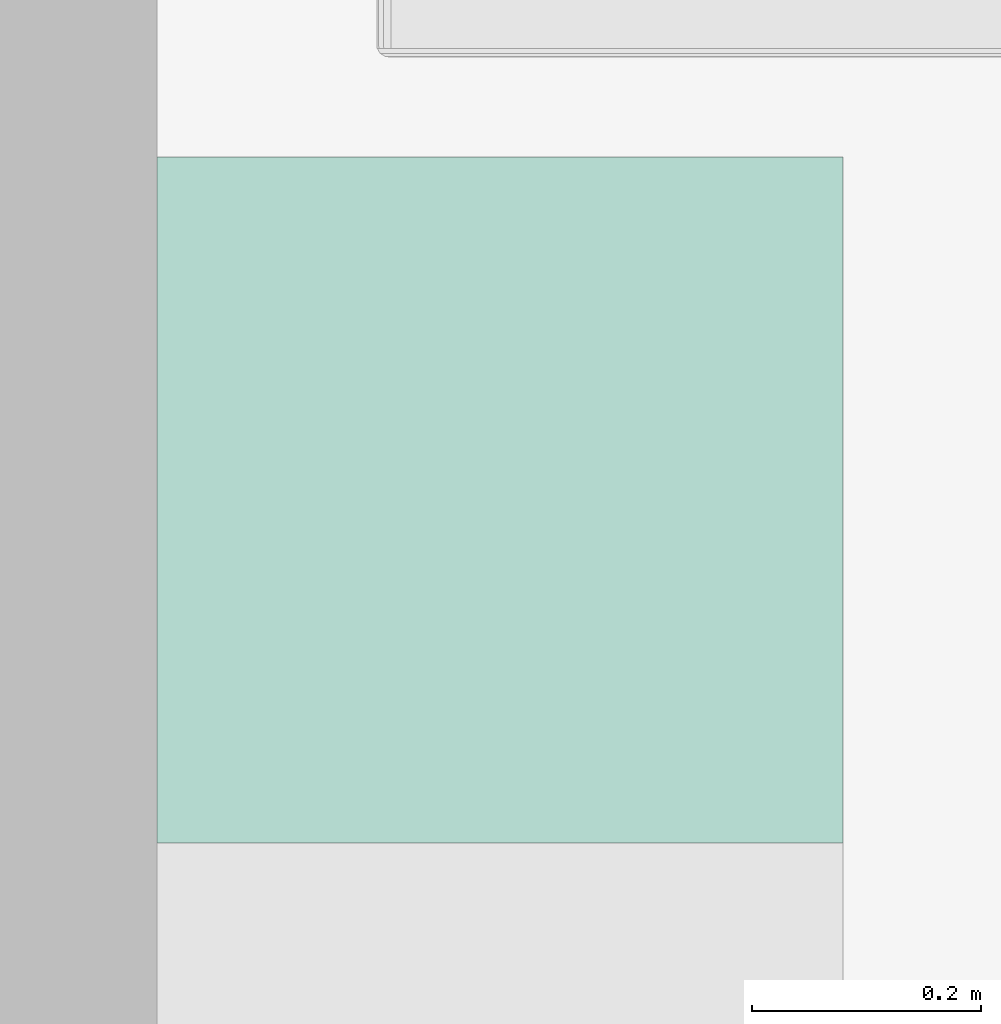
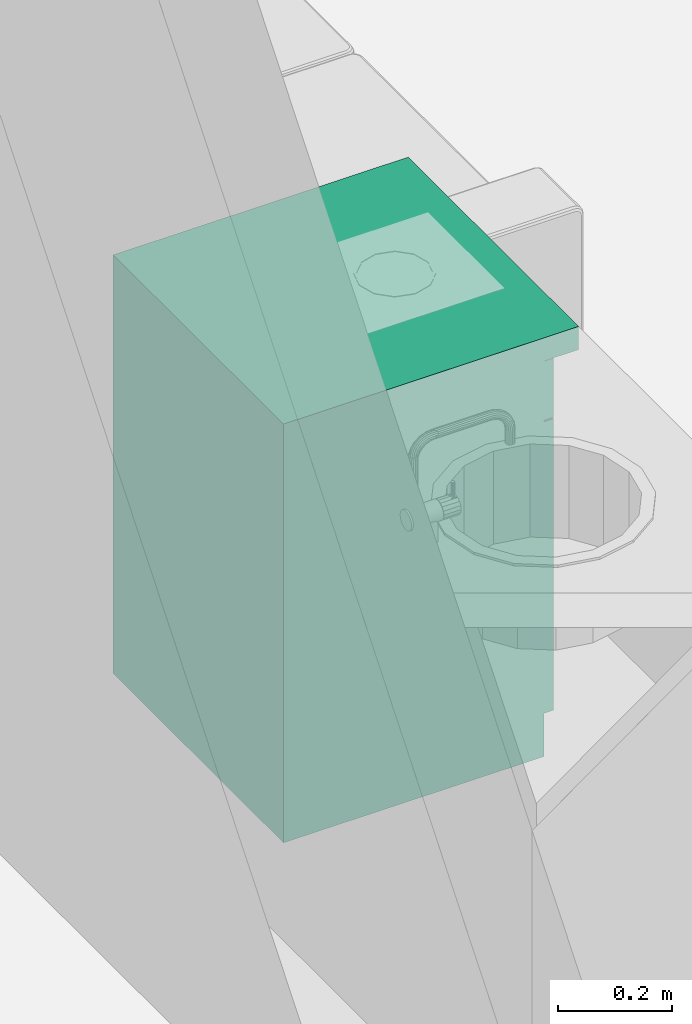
# One storey, part 40 of 165: 1 flow terminal.
"""IFC2X3 building model written with IfcOpenShell, lengths in millimetres."""

import ifcopenshell
import ifcopenshell.guid

model = None  # the IFC model being written
_history = None  # IfcOwnerHistory: only IFC2X3 demands one
_inside = {}  # id of a spatial element -> (the spatial element, [elements in it])
_under = {}  # id of a project, library or spatial element -> (it, [spatial elements below it])
_declared = {}  # id of a project -> (the project, [libraries it declares])
_typed = {}  # id of a type object -> (the type object, [elements of that type])
_made_of = {}  # id of a material, layer set ... -> (it, [elements and type objects made of it])


def new_model(schema):
    """Start an empty IFC model of exactly this schema.

    Asked for "IFC4X3", IfcOpenShell would pick the latest addendum, in which some entities
    have other attributes; the version numbers below select the first issue.
    IFC2X3 requires an IfcOwnerHistory on every rooted entity: one is made here for all.
    """
    global model, _history
    if schema == "IFC4X3":
        model = ifcopenshell.file(schema_version=(4, 3, 0, 0))
    else:
        model = ifcopenshell.file(schema=schema)
    _inside.clear()
    _under.clear()
    _declared.clear()
    _typed.clear()
    _made_of.clear()
    _history = None
    if model.schema == "IFC2X3":
        org = make("IfcOrganization", Name="unknown")
        user = make(
            "IfcPersonAndOrganization",
            ThePerson=make("IfcPerson", FamilyName="unknown"),
            TheOrganization=org,
        )
        app = make(
            "IfcApplication",
            ApplicationDeveloper=org,
            Version="unknown",
            ApplicationFullName="unknown",
            ApplicationIdentifier="unknown",
        )
        _history = make(
            "IfcOwnerHistory",
            OwningUser=user,
            OwningApplication=app,
            ChangeAction="ADDED",
            CreationDate=0,
        )
    return model


def make(cls, **values):
    """One entity of the class cls with the attributes given. An attribute that is None is left unset."""
    return model.create_entity(
        cls, **{name: value for name, value in values.items() if value is not None}
    )


def entity(cls, *values):
    """Any entity or typed value of the class cls, its attributes in the order of the schema. None: left unset."""
    e = model.create_entity(cls)
    for i, value in enumerate(values):
        if value is not None:
            e[i] = value
    return e


def rooted(cls, **values):
    """An entity with a GlobalId (a new one), such as an element, a storey or a relation."""
    return make(cls, GlobalId=ifcopenshell.guid.new(), OwnerHistory=_history, **values)


def si_unit(unit_type, name, prefix=None):
    """IfcSIUnit, for example si_unit("LENGTHUNIT", "METRE", prefix="MILLI")."""
    return make("IfcSIUnit", UnitType=unit_type, Prefix=prefix, Name=name)


def converted_unit(unit_type, name, factor, base, dimensions=None, offset=None):
    """IfcConversionBasedUnit, such as the inch: factor (a typed value) times the base unit."""
    return make(
        "IfcConversionBasedUnit"
        if offset is None
        else "IfcConversionBasedUnitWithOffset",
        ConversionOffset=offset,
        Dimensions=None
        if dimensions is None
        else entity("IfcDimensionalExponents", *dimensions),
        UnitType=unit_type,
        Name=name,
        ConversionFactor=make(
            "IfcMeasureWithUnit", ValueComponent=factor, UnitComponent=base
        ),
    )


def money_unit(currency):
    """IfcMonetaryUnit."""
    return make("IfcMonetaryUnit", Currency=currency)


def assignment(units):
    """IfcUnitAssignment: the units of a project."""
    return None if units is None else make("IfcUnitAssignment", Units=units)


def point(xyz):
    """IfcCartesianPoint."""
    return None if xyz is None else make("IfcCartesianPoint", Coordinates=xyz)


def direction(xyz):
    """IfcDirection."""
    return None if xyz is None else make("IfcDirection", DirectionRatios=xyz)


def frame(location, z_axis=None, x_axis=None):
    """IfcAxis2Placement3D, a coordinate frame: its origin and axes. An axis left out is left unset."""
    return make(
        "IfcAxis2Placement3D",
        Location=point(location),
        Axis=direction(z_axis),
        RefDirection=direction(x_axis),
    )


def origin_with_axes():
    """The frame at (0, 0, 0) with the z axis (0, 0, 1) and the x axis (1, 0, 0) written out."""
    return frame((0.0, 0.0, 0.0), z_axis=(0.0, 0.0, 1.0), x_axis=(1.0, 0.0, 0.0))


def place(relative_to, where):
    """IfcLocalPlacement: puts the frame where relative to a parent placement (None: the world)."""
    return make(
        "IfcLocalPlacement", PlacementRelTo=relative_to, RelativePlacement=where
    )


def context(
    kind, dimensions, precision=None, world=None, true_north=None, identifier=None
):
    """IfcGeometricRepresentationContext, for example the 3D "Model" context."""
    return make(
        "IfcGeometricRepresentationContext",
        ContextIdentifier=identifier,
        ContextType=kind,
        CoordinateSpaceDimension=dimensions,
        Precision=precision,
        WorldCoordinateSystem=world,
        TrueNorth=true_north,
    )


def subcontext(parent, identifier, kind, view, scale=None):
    """IfcGeometricRepresentationSubContext, for example "Body" below "Model"."""
    return make(
        "IfcGeometricRepresentationSubContext",
        ContextIdentifier=identifier,
        ContextType=kind,
        ParentContext=parent,
        TargetScale=scale,
        TargetView=view,
    )


def project(units=None, contexts=None):
    """IfcProject with its units and contexts."""
    return rooted(
        "IfcProject",
        Name="project",
        RepresentationContexts=contexts,
        UnitsInContext=assignment(units),
    )


def spatial(cls, under=None, at=None, **own):
    """A site, building, storey or space (cls), placed at a placement, below another one or the project."""
    s = rooted(cls, ObjectPlacement=at, **own)
    if under is not None:
        _under.setdefault(under.id(), (under, []))[1].append(s)
    return s


def faces_of(points, faces, orient=None, outer=None):
    """IfcFace entities. A face is a list of loops; a loop is a list of indices into points, from 0.

    orient and outer hold one flag for each loop. By default every Orientation is true, the
    first loop of a face is its IfcFaceOuterBound and the others are IfcFaceBound.
    """
    made = []
    for i, loops in enumerate(faces):
        bounds = []
        for j, loop in enumerate(loops):
            is_outer = j == 0 if outer is None else outer[i][j]
            bounds.append(
                make(
                    "IfcFaceOuterBound" if is_outer else "IfcFaceBound",
                    Bound=make("IfcPolyLoop", Polygon=[points[k] for k in loop]),
                    Orientation=True if orient is None else orient[i][j],
                )
            )
        made.append(make("IfcFace", Bounds=bounds))
    return made


def faceted_brep(points, faces, orient=None, outer=None, voids=None):
    """IfcFacetedBrep: a solid bounded by flat faces; with voids (closed shells), ...WithVoids."""
    shared = [point(p) for p in points]
    hull = make("IfcClosedShell", CfsFaces=faces_of(shared, faces, orient, outer))
    if voids is None:
        return make("IfcFacetedBrep", Outer=hull)
    return make(
        "IfcFacetedBrepWithVoids",
        Outer=hull,
        Voids=[
            make(cls, CfsFaces=faces_of(shared, fs, o, b)) for cls, fs, o, b in voids
        ],
    )


def shape(context_of_items, identifier, shape_type, items):
    """IfcShapeRepresentation: the items that make up one representation, for example the "Body"."""
    return make(
        "IfcShapeRepresentation",
        ContextOfItems=context_of_items,
        RepresentationIdentifier=identifier,
        RepresentationType=shape_type,
        Items=items,
    )


def source(mapping_origin, context_of_items, identifier, shape_type, items):
    """IfcRepresentationMap: a shape defined once, which mapped items show again and again."""
    return make(
        "IfcRepresentationMap",
        MappingOrigin=mapping_origin,
        MappedRepresentation=shape(context_of_items, identifier, shape_type, items),
    )


def transform(
    local_origin,
    x_axis=None,
    y_axis=None,
    z_axis=None,
    scale=None,
    scale2=None,
    scale3=None,
    uniform=True,
):
    """IfcCartesianTransformationOperator3D, or its non-uniform kind. x_axis, y_axis, z_axis: its Axis1, 2, 3."""
    if uniform:
        return make(
            "IfcCartesianTransformationOperator3D",
            Axis1=direction(x_axis),
            Axis2=direction(y_axis),
            LocalOrigin=point(local_origin),
            Scale=scale,
            Axis3=direction(z_axis),
        )
    return make(
        "IfcCartesianTransformationOperator3DnonUniform",
        Axis1=direction(x_axis),
        Axis2=direction(y_axis),
        LocalOrigin=point(local_origin),
        Scale=scale,
        Axis3=direction(z_axis),
        Scale2=scale2,
        Scale3=scale3,
    )


def mapped(mapping_source, mapping_target):
    """IfcMappedItem: shows the shape of a source again, moved by a transform."""
    return make(
        "IfcMappedItem", MappingSource=mapping_source, MappingTarget=mapping_target
    )


def material(Name=None, Category=None):
    """IfcMaterial."""
    return make("IfcMaterial", Name=Name, Category=Category)


def material_list(materials):
    """IfcMaterialList."""
    return make("IfcMaterialList", Materials=materials)


def made_of(thing, what):
    """Note that an element or type object is made of a material, layer set ...; save() writes the relation."""
    if what is not None:
        _made_of.setdefault(what.id(), (what, []))[1].append(thing)
    return thing


def type_object(cls, material=None, **own):
    """A type object (cls), such as IfcWallType, which elements share."""
    return made_of(rooted(cls, **own), material)


def element(
    cls,
    number,
    at=None,
    inside=None,
    cuts=None,
    type_object=None,
    material=None,
    context=None,
    identifier="Body",
    shape_type=None,
    held_by="IfcProductDefinitionShape",
    body=None,
    shapes=None,
    **own,
):
    """One element of the class cls, such as IfcWall. Its Tag is "e" and its number.

    at: its placement. inside: the storey or other place that contains it. cuts: it is an
    opening in that element (IfcRelVoidsElement). A single representation is given by context,
    identifier, shape_type and body (its items); several are given by shapes. held_by: the class
    of the entity that holds the representations. save() writes the other relations.
    """
    e = rooted(cls, Tag="e%d" % number, ObjectPlacement=at, **own)
    if body is not None:
        shapes = [shape(context, identifier, shape_type, body)]
    if shapes is not None:
        e.Representation = make(held_by, Representations=shapes)
    if inside is not None:
        _inside.setdefault(inside.id(), (inside, []))[1].append(e)
    if cuts is not None:
        rooted(
            "IfcRelVoidsElement", RelatingBuildingElement=cuts, RelatedOpeningElement=e
        )
    if type_object is not None:
        _typed.setdefault(type_object.id(), (type_object, []))[1].append(e)
    return made_of(e, material)


def aggregate(whole, parts):
    """IfcRelAggregates: a whole, such as a stair, and the parts it consists of."""
    return rooted("IfcRelAggregates", RelatingObject=whole, RelatedObjects=parts)


def save(model, path):
    """Write the relations noted so far, then the file.

    IfcRelAggregates (storeys below a building ...), IfcRelContainedInSpatialStructure (elements
    in a storey), IfcRelDefinesByType, IfcRelAssociatesMaterial and IfcRelDeclares: one each for
    every whole, place, type object, material and project.
    """
    for whole, parts in _under.values():
        aggregate(whole, parts)
    for where, things in _inside.values():
        rooted(
            "IfcRelContainedInSpatialStructure",
            RelatedElements=things,
            RelatingStructure=where,
        )
    for kind, things in _typed.values():
        rooted("IfcRelDefinesByType", RelatedObjects=things, RelatingType=kind)
    for what, things in _made_of.values():
        rooted("IfcRelAssociatesMaterial", RelatedObjects=things, RelatingMaterial=what)
    for by, libraries in _declared.values():
        rooted("IfcRelDeclares", RelatingContext=by, RelatedDefinitions=libraries)
    model.write(path)


model = new_model("IFC2X3")

# Units and contexts
model_context = context("Model", 3, precision=1e-05, world=origin_with_axes(), true_north=direction((0.0, 1.0)))
body_context = subcontext(model_context, "Body", "Model", "MODEL_VIEW")
ifc_project = project(units=[si_unit("LENGTHUNIT", "METRE", prefix="MILLI"), si_unit("AREAUNIT", "SQUARE_METRE"), si_unit("VOLUMEUNIT", "CUBIC_METRE"), converted_unit("PLANEANGLEUNIT", "DEGREE", entity("IfcPlaneAngleMeasure", 0.0174532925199), si_unit("PLANEANGLEUNIT", "RADIAN"), dimensions=[0, 0, 0, 0, 0, 0, 0]), si_unit("SOLIDANGLEUNIT", "STERADIAN"), money_unit("USD"), converted_unit("TIMEUNIT", "Year", entity("IfcTimeMeasure", 31556926.0), si_unit("TIMEUNIT", "SECOND"), dimensions=[0, 0, 0, 0, 0, 0, 0]), si_unit("MASSUNIT", "GRAM"), si_unit("THERMODYNAMICTEMPERATUREUNIT", "DEGREE_CELSIUS"), si_unit("LUMINOUSINTENSITYUNIT", "LUMEN")], contexts=[model_context])

# Site, building, storey
site_placement = place(None, origin_with_axes())
site = spatial("IfcSite", under=ifc_project, at=site_placement, Name="Site", CompositionType="ELEMENT")
building_placement = place(site_placement, origin_with_axes())
building = spatial("IfcBuilding", under=site, at=building_placement, Name="Building", CompositionType="ELEMENT")
storey_placement = place(building_placement, frame((0.0, 0.0, 6300.0), z_axis=(0.0, 0.0, 1.0), x_axis=(1.0, 0.0, 0.0)))
storey = spatial("IfcBuildingStorey", under=building, at=storey_placement, Name="4KORRUS", CompositionType="ELEMENT", Elevation=6300.0)

# Flow terminal
ifc_material = material(Name="Background")
ifc_material_list = material_list([ifc_material])
sanitary_terminal_type = type_object("IfcSanitaryTerminalType", Name="Cabinet Base Single Door 19", PredefinedType="SINK")
shared_shape = source(origin_with_axes(), body_context, "Body", "Brep", [
    faceted_brep([(20.0, 70.0, 710.0), (580.0, 70.0, 710.0), (580.0, 70.0, 730.0), (20.0, 70.0, 730.0), (20.0, 580.0, 710.0), (580.0, 580.0, 710.0), (580.0, 580.0, 730.0), (20.0, 580.0, 730.0)], [[[0, 1, 2, 3]], [[0, 4, 5, 1]], [[1, 5, 6, 2]], [[3, 2, 6, 7]], [[4, 0, 3, 7]], [[5, 4, 7, 6]]]),
    faceted_brep([(0.0, 70.0, 0.0), (600.0, 70.0, 0.0), (600.0, 70.0, 90.0), (0.0, 70.0, 90.0), (0.0, 600.0, 0.0), (600.0, 600.0, 0.0), (600.0, 600.0, 90.0), (0.0, 600.0, 90.0)], [[[0, 1, 2, 3]], [[0, 4, 5, 1]], [[1, 5, 6, 2]], [[3, 2, 6, 7]], [[4, 0, 3, 7]], [[5, 4, 7, 6]]]),
    faceted_brep([(0.0, 70.0, 830.0), (20.0, 70.0, 830.0), (20.0, 70.0, 850.0), (0.0, 70.0, 850.0), (0.0, 600.0, 830.0), (20.0, 600.0, 830.0), (580.0, 600.0, 830.0), (600.0, 600.0, 830.0), (600.0, 70.0, 830.0), (580.0, 70.0, 830.0), (580.0, 70.0, 850.0), (600.0, 70.0, 850.0), (600.0, 600.0, 850.0), (580.0, 600.0, 850.0), (20.0, 600.0, 850.0), (0.0, 600.0, 850.0)], [[[0, 1, 2, 3]], [[0, 4, 5, 6, 7, 8, 9, 1]], [[1, 9, 10, 2]], [[3, 2, 10, 11, 12, 13, 14, 15]], [[4, 0, 3, 15]], [[5, 4, 15, 14]], [[6, 5, 14, 13]], [[7, 6, 13, 12]], [[8, 7, 12, 11]], [[9, 8, 11, 10]]]),
    faceted_brep([(0.0, 70.0, 90.0), (20.0, 70.0, 90.0), (20.0, 70.0, 110.0), (0.0, 70.0, 110.0), (0.0, 600.0, 90.0), (20.0, 600.0, 90.0), (580.0, 600.0, 90.0), (600.0, 600.0, 90.0), (600.0, 70.0, 90.0), (580.0, 70.0, 90.0), (580.0, 70.0, 110.0), (600.0, 70.0, 110.0), (600.0, 600.0, 110.0), (580.0, 600.0, 110.0), (20.0, 600.0, 110.0), (0.0, 600.0, 110.0)], [[[0, 1, 2, 3]], [[0, 4, 5, 6, 7, 8, 9, 1]], [[1, 9, 10, 2]], [[3, 2, 10, 11, 12, 13, 14, 15]], [[4, 0, 3, 15]], [[5, 4, 15, 14]], [[6, 5, 14, 13]], [[7, 6, 13, 12]], [[8, 7, 12, 11]], [[9, 8, 11, 10]]]),
    faceted_brep([(0.0, 70.0, 110.0), (20.0, 70.0, 110.0), (20.0, 70.0, 830.0), (0.0, 70.0, 830.0), (0.0, 600.0, 110.0), (600.0, 600.0, 110.0), (600.0, 70.0, 110.0), (580.0, 70.0, 110.0), (580.0, 580.0, 110.0), (20.0, 580.0, 110.0), (20.0, 580.0, 830.0), (580.0, 580.0, 830.0), (580.0, 70.0, 830.0), (600.0, 70.0, 830.0), (600.0, 600.0, 830.0), (0.0, 600.0, 830.0)], [[[0, 1, 2, 3]], [[0, 4, 5, 6, 7, 8, 9, 1]], [[1, 9, 10, 2]], [[3, 2, 10, 11, 12, 13, 14, 15]], [[4, 0, 3, 15]], [[5, 4, 15, 14]], [[6, 5, 14, 13]], [[7, 6, 13, 12]], [[8, 7, 12, 11]], [[9, 8, 11, 10]]]),
    faceted_brep([(580.0, 70.0, 385.0), (580.0, 580.0, 385.0), (580.0, 580.0, 405.0), (580.0, 70.0, 405.0), (20.0, 70.0, 385.0), (20.0, 580.0, 385.0), (20.0, 580.0, 405.0), (20.0, 70.0, 405.0)], [[[0, 1, 2, 3]], [[0, 4, 5, 1]], [[1, 5, 6, 2]], [[3, 2, 6, 7]], [[4, 0, 3, 7]], [[5, 4, 7, 6]]]),
    faceted_brep([(0.0, 0.0, 850.0), (600.0, 0.0, 850.0), (600.0, 0.0, 900.0), (0.0, 0.0, 900.0), (0.0, 600.0, 850.0), (600.0, 600.0, 850.0), (600.0, 600.0, 900.0), (0.0, 600.0, 900.0)], [[[0, 1, 2, 3]], [[0, 4, 5, 1]], [[1, 5, 6, 2]], [[3, 2, 6, 7]], [[4, 0, 3, 7]], [[5, 4, 7, 6]]]),
    faceted_brep([(1.5, 70.0, 721.5), (598.5, 70.0, 721.5), (598.5, 50.0, 721.5), (1.5, 50.0, 721.5), (1.5, 70.0, 848.5), (598.5, 70.0, 848.5), (598.5, 50.0, 848.5), (1.5, 50.0, 848.5)], [[[0, 1, 2, 3]], [[0, 4, 5, 1]], [[1, 5, 6, 2]], [[3, 2, 6, 7]], [[4, 0, 3, 7]], [[5, 4, 7, 6]]]),
    faceted_brep([(295.408, 50.0, 773.913), (291.515, 50.0, 776.515), (288.913, 50.0, 780.408), (288.0, 50.0, 785.0), (288.913, 50.0, 789.592), (291.515, 50.0, 793.485), (295.408, 50.0, 796.087), (300.0, 50.0, 797.0), (304.592, 50.0, 796.087), (308.485, 50.0, 793.485), (311.087, 50.0, 789.592), (312.0, 50.0, 785.0), (311.087, 50.0, 780.408), (308.485, 50.0, 776.515), (304.592, 50.0, 773.913), (300.0, 50.0, 773.0), (295.408, 25.0, 773.913), (291.515, 25.0, 776.515), (288.913, 25.0, 780.408), (288.0, 25.0, 785.0), (288.913, 25.0, 789.592), (291.515, 25.0, 793.485), (295.408, 25.0, 796.087), (300.0, 25.0, 797.0), (304.592, 25.0, 796.087), (308.485, 25.0, 793.485), (311.087, 25.0, 789.592), (312.0, 25.0, 785.0), (311.087, 25.0, 780.408), (308.485, 25.0, 776.515), (304.592, 25.0, 773.913), (300.0, 25.0, 773.0)], [[[0, 1, 2, 3, 4, 5, 6, 7, 8, 9, 10, 11, 12, 13, 14, 15]], [[1, 0, 16, 17]], [[2, 1, 17, 18]], [[3, 2, 18, 19]], [[4, 3, 19, 20]], [[5, 4, 20, 21]], [[6, 5, 21, 22]], [[7, 6, 22, 23]], [[8, 7, 23, 24]], [[9, 8, 24, 25]], [[10, 9, 25, 26]], [[11, 10, 26, 27]], [[12, 11, 27, 28]], [[13, 12, 28, 29]], [[14, 13, 29, 30]], [[15, 14, 30, 31]], [[0, 15, 31, 16]], [[16, 31, 30, 29, 28, 27, 26, 25, 24, 23, 22, 21, 20, 19, 18, 17]]]),
    faceted_brep([(1.5, 70.0, 91.5), (598.5, 70.0, 91.5), (598.5, 50.0, 91.5), (1.5, 50.0, 91.5), (1.5, 70.0, 718.5), (598.5, 70.0, 718.5), (598.5, 50.0, 718.5), (1.5, 50.0, 718.5)], [[[0, 1, 2, 3]], [[0, 4, 5, 1]], [[1, 5, 6, 2]], [[3, 2, 6, 7]], [[4, 0, 3, 7]], [[5, 4, 7, 6]]]),
    faceted_brep([(559.587, 50.0, 636.908), (556.985, 50.0, 633.015), (553.092, 50.0, 630.413), (548.5, 50.0, 629.5), (543.908, 50.0, 630.413), (540.015, 50.0, 633.015), (537.413, 50.0, 636.908), (536.5, 50.0, 641.5), (537.413, 50.0, 646.092), (540.015, 50.0, 649.985), (543.908, 50.0, 652.587), (548.5, 50.0, 653.5), (553.092, 50.0, 652.587), (556.985, 50.0, 649.985), (559.587, 50.0, 646.092), (560.5, 50.0, 641.5), (559.587, 25.0, 636.908), (556.985, 25.0, 633.015), (553.092, 25.0, 630.413), (548.5, 25.0, 629.5), (543.908, 25.0, 630.413), (540.015, 25.0, 633.015), (537.413, 25.0, 636.908), (536.5, 25.0, 641.5), (537.413, 25.0, 646.092), (540.015, 25.0, 649.985), (543.908, 25.0, 652.587), (548.5, 25.0, 653.5), (553.092, 25.0, 652.587), (556.985, 25.0, 649.985), (559.587, 25.0, 646.092), (560.5, 25.0, 641.5)], [[[0, 1, 2, 3, 4, 5, 6, 7, 8, 9, 10, 11, 12, 13, 14, 15]], [[1, 0, 16, 17]], [[2, 1, 17, 18]], [[3, 2, 18, 19]], [[4, 3, 19, 20]], [[5, 4, 20, 21]], [[6, 5, 21, 22]], [[7, 6, 22, 23]], [[8, 7, 23, 24]], [[9, 8, 24, 25]], [[10, 9, 25, 26]], [[11, 10, 26, 27]], [[12, 11, 27, 28]], [[13, 12, 28, 29]], [[14, 13, 29, 30]], [[15, 14, 30, 31]], [[0, 15, 31, 16]], [[16, 31, 30, 29, 28, 27, 26, 25, 24, 23, 22, 21, 20, 19, 18, 17]]]),
])
flow_terminal_placement = place(storey_placement, frame((-17240.2967033, -7590.04257412, 0.0), z_axis=(0.0, 0.0, 1.0), x_axis=(0.0, 1.0, 0.0)))
element("IfcFlowTerminal", 1, at=flow_terminal_placement, inside=storey, type_object=sanitary_terminal_type, material=ifc_material_list, Name="FU - 007", context=body_context, shape_type="MappedRepresentation", body=[
    mapped(shared_shape, transform((0.0, 0.0, 0.0))),
])

save(model, "model.ifc")
